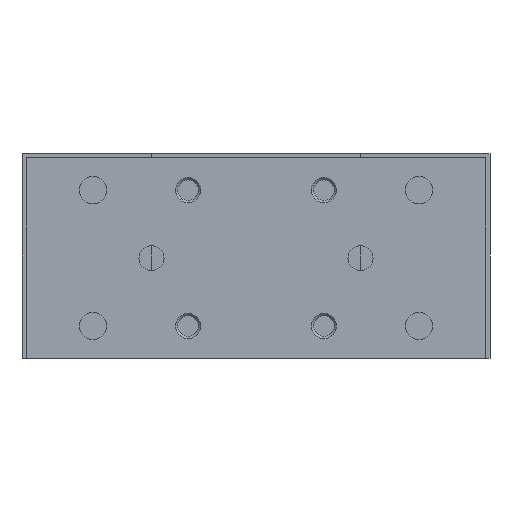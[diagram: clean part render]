
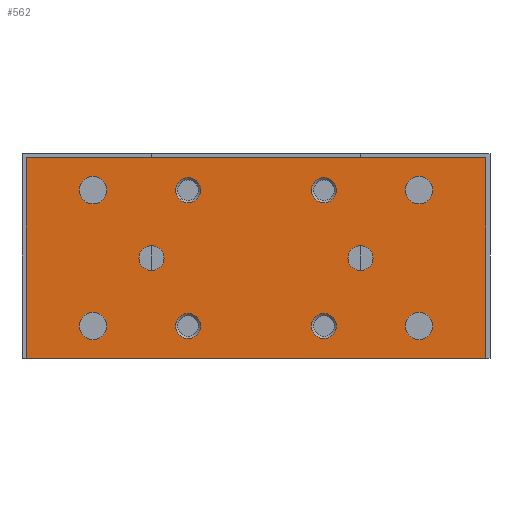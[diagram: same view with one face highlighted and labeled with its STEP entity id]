
A CAD part, left-side view. The second image highlights one B-rep face of the part: STEP entity #562.
In plain terms, the highlighted planar face has unit normal (-1, 0, 0).
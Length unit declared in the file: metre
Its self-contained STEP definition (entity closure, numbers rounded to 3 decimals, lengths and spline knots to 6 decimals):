
#562 = ADVANCED_FACE( '', ( #1371, #1372, #1373, #1374, #1375, #1376, #1377, #1378, #1379, #1380, #1381 ), #1382, .F. );
#1371 = FACE_BOUND( '', #2439, .T. );
#1372 = FACE_BOUND( '', #2440, .T. );
#1373 = FACE_BOUND( '', #2441, .T. );
#1374 = FACE_BOUND( '', #2442, .T. );
#1375 = FACE_BOUND( '', #2443, .T. );
#1376 = FACE_BOUND( '', #2444, .T. );
#1377 = FACE_BOUND( '', #2445, .T. );
#1378 = FACE_BOUND( '', #2446, .T. );
#1379 = FACE_BOUND( '', #2447, .T. );
#1380 = FACE_BOUND( '', #2448, .T. );
#1381 = FACE_OUTER_BOUND( '', #2449, .T. );
#1382 = PLANE( '', #2450 );
#2439 = EDGE_LOOP( '', ( #3883 ) );
#2440 = EDGE_LOOP( '', ( #3884 ) );
#2441 = EDGE_LOOP( '', ( #3885 ) );
#2442 = EDGE_LOOP( '', ( #3886 ) );
#2443 = EDGE_LOOP( '', ( #3887 ) );
#2444 = EDGE_LOOP( '', ( #3888 ) );
#2445 = EDGE_LOOP( '', ( #3889 ) );
#2446 = EDGE_LOOP( '', ( #3890 ) );
#2447 = EDGE_LOOP( '', ( #3891 ) );
#2448 = EDGE_LOOP( '', ( #3892 ) );
#2449 = EDGE_LOOP( '', ( #3893, #3894, #3895, #3896 ) );
#2450 = AXIS2_PLACEMENT_3D( '', #3897, #3898, #3899 );
#3883 = ORIENTED_EDGE( '', *, *, #5165, .T. );
#3884 = ORIENTED_EDGE( '', *, *, #5267, .T. );
#3885 = ORIENTED_EDGE( '', *, *, #5268, .T. );
#3886 = ORIENTED_EDGE( '', *, *, #5265, .T. );
#3887 = ORIENTED_EDGE( '', *, *, #5184, .F. );
#3888 = ORIENTED_EDGE( '', *, *, #5236, .T. );
#3889 = ORIENTED_EDGE( '', *, *, #5090, .T. );
#3890 = ORIENTED_EDGE( '', *, *, #5123, .F. );
#3891 = ORIENTED_EDGE( '', *, *, #4864, .F. );
#3892 = ORIENTED_EDGE( '', *, *, #5269, .T. );
#3893 = ORIENTED_EDGE( '', *, *, #5036, .T. );
#3894 = ORIENTED_EDGE( '', *, *, #4958, .T. );
#3895 = ORIENTED_EDGE( '', *, *, #5270, .T. );
#3896 = ORIENTED_EDGE( '', *, *, #5271, .T. );
#3897 = CARTESIAN_POINT( '', ( -0.07925, -0.055, -0.049 ) );
#3898 = DIRECTION( '', ( 1., 0., 0. ) );
#3899 = DIRECTION( '', ( 0., 1., 0. ) );
#4864 = EDGE_CURVE( '', #5545, #5545, #5546, .T. );
#4958 = EDGE_CURVE( '', #5704, #5702, #5705, .T. );
#5036 = EDGE_CURVE( '', #5839, #5704, #5840, .T. );
#5090 = EDGE_CURVE( '', #5928, #5928, #5929, .T. );
#5123 = EDGE_CURVE( '', #5976, #5976, #5977, .T. );
#5165 = EDGE_CURVE( '', #6036, #6036, #6037, .T. );
#5184 = EDGE_CURVE( '', #6064, #6064, #6065, .T. );
#5236 = EDGE_CURVE( '', #6138, #6138, #6139, .T. );
#5265 = EDGE_CURVE( '', #6180, #6180, #6181, .T. );
#5267 = EDGE_CURVE( '', #6183, #6183, #6184, .T. );
#5268 = EDGE_CURVE( '', #6185, #6185, #6186, .T. );
#5269 = EDGE_CURVE( '', #6187, #6187, #6188, .T. );
#5270 = EDGE_CURVE( '', #5702, #6189, #6190, .T. );
#5271 = EDGE_CURVE( '', #6189, #5839, #6191, .T. );
#5545 = VERTEX_POINT( '', #6563 );
#5546 = CIRCLE( '', #6564, 0.003 );
#5702 = VERTEX_POINT( '', #6744 );
#5704 = VERTEX_POINT( '', #6747 );
#5705 = LINE( '', #6748, #6749 );
#5839 = VERTEX_POINT( '', #6910 );
#5840 = LINE( '', #6911, #6912 );
#5928 = VERTEX_POINT( '', #7052 );
#5929 = CIRCLE( '', #7053, 0.003 );
#5976 = VERTEX_POINT( '', #7112 );
#5977 = CIRCLE( '', #7113, 0.003 );
#6036 = VERTEX_POINT( '', #7212 );
#6037 = CIRCLE( '', #7213, 0.0033 );
#6064 = VERTEX_POINT( '', #7273 );
#6065 = CIRCLE( '', #7274, 0.003 );
#6138 = VERTEX_POINT( '', #7362 );
#6139 = CIRCLE( '', #7363, 0.003 );
#6180 = VERTEX_POINT( '', #7413 );
#6181 = CIRCLE( '', #7414, 0.0033 );
#6183 = VERTEX_POINT( '', #7416 );
#6184 = CIRCLE( '', #7417, 0.0033 );
#6185 = VERTEX_POINT( '', #7418 );
#6186 = CIRCLE( '', #7419, 0.0033 );
#6187 = VERTEX_POINT( '', #7420 );
#6188 = CIRCLE( '', #7421, 0.003 );
#6189 = VERTEX_POINT( '', #7422 );
#6190 = LINE( '', #7423, #7424 );
#6191 = LINE( '', #7425, #7426 );
#6563 = CARTESIAN_POINT( '', ( -0.07925, -0.01325, -0.00875 ) );
#6564 = AXIS2_PLACEMENT_3D( '', #7864, #7865, #7866 );
#6744 = CARTESIAN_POINT( '', ( -0.07925, 0.055, -0.001 ) );
#6747 = CARTESIAN_POINT( '', ( -0.07925, -0.055, -0.001 ) );
#6748 = CARTESIAN_POINT( '', ( -0.07925, -0.055, -0.001 ) );
#6749 = VECTOR( '', #8012, 1. );
#6910 = CARTESIAN_POINT( '', ( -0.07925, -0.055, -0.049 ) );
#6911 = CARTESIAN_POINT( '', ( -0.07925, -0.055, -0.049 ) );
#6912 = VECTOR( '', #8142, 1. );
#7052 = CARTESIAN_POINT( '', ( -0.07925, -0.01325, -0.04125 ) );
#7053 = AXIS2_PLACEMENT_3D( '', #8216, #8217, #8218 );
#7112 = CARTESIAN_POINT( '', ( -0.07925, 0.01325, -0.04125 ) );
#7113 = AXIS2_PLACEMENT_3D( '', #8255, #8256, #8257 );
#7212 = CARTESIAN_POINT( '', ( -0.07925, -0.0357, -0.04125 ) );
#7213 = AXIS2_PLACEMENT_3D( '', #8307, #8308, #8309 );
#7273 = CARTESIAN_POINT( '', ( -0.07925, -0.025, -0.022 ) );
#7274 = AXIS2_PLACEMENT_3D( '', #8334, #8335, #8336 );
#7362 = CARTESIAN_POINT( '', ( -0.07925, 0.025, -0.022 ) );
#7363 = AXIS2_PLACEMENT_3D( '', #8394, #8395, #8396 );
#7413 = CARTESIAN_POINT( '', ( -0.07925, 0.0423, -0.00875 ) );
#7414 = AXIS2_PLACEMENT_3D( '', #8433, #8434, #8435 );
#7416 = CARTESIAN_POINT( '', ( -0.07925, 0.0423, -0.04125 ) );
#7417 = AXIS2_PLACEMENT_3D( '', #8436, #8437, #8438 );
#7418 = CARTESIAN_POINT( '', ( -0.07925, -0.0357, -0.00875 ) );
#7419 = AXIS2_PLACEMENT_3D( '', #8439, #8440, #8441 );
#7420 = CARTESIAN_POINT( '', ( -0.07925, 0.01325, -0.00875 ) );
#7421 = AXIS2_PLACEMENT_3D( '', #8442, #8443, #8444 );
#7422 = CARTESIAN_POINT( '', ( -0.07925, 0.055, -0.049 ) );
#7423 = CARTESIAN_POINT( '', ( -0.07925, 0.055, -0.001 ) );
#7424 = VECTOR( '', #8445, 1. );
#7425 = CARTESIAN_POINT( '', ( -0.07925, 0.055, -0.049 ) );
#7426 = VECTOR( '', #8446, 1. );
#7864 = CARTESIAN_POINT( '', ( -0.07925, -0.01625, -0.00875 ) );
#7865 = DIRECTION( '', ( -1., 0., 0. ) );
#7866 = DIRECTION( '', ( 0., 1., 0. ) );
#8012 = DIRECTION( '', ( 0., 1., 0. ) );
#8142 = DIRECTION( '', ( 0., 0., 1. ) );
#8216 = CARTESIAN_POINT( '', ( -0.07925, -0.01625, -0.04125 ) );
#8217 = DIRECTION( '', ( 1., 0., 0. ) );
#8218 = DIRECTION( '', ( 0., 1., 0. ) );
#8255 = CARTESIAN_POINT( '', ( -0.07925, 0.01625, -0.04125 ) );
#8256 = DIRECTION( '', ( -1., 0., 0. ) );
#8257 = DIRECTION( '', ( 0., -1., 0. ) );
#8307 = CARTESIAN_POINT( '', ( -0.07925, -0.039, -0.04125 ) );
#8308 = DIRECTION( '', ( 1., 0., 0. ) );
#8309 = DIRECTION( '', ( 0., 1., 0. ) );
#8334 = CARTESIAN_POINT( '', ( -0.07925, -0.025, -0.025 ) );
#8335 = DIRECTION( '', ( -1., 0., 0. ) );
#8336 = DIRECTION( '', ( 0., 0., 1. ) );
#8394 = CARTESIAN_POINT( '', ( -0.07925, 0.025, -0.025 ) );
#8395 = DIRECTION( '', ( 1., 0., 0. ) );
#8396 = DIRECTION( '', ( 0., 0., 1. ) );
#8433 = CARTESIAN_POINT( '', ( -0.07925, 0.039, -0.00875 ) );
#8434 = DIRECTION( '', ( 1., 0., 0. ) );
#8435 = DIRECTION( '', ( 0., 1., 0. ) );
#8436 = CARTESIAN_POINT( '', ( -0.07925, 0.039, -0.04125 ) );
#8437 = DIRECTION( '', ( 1., 0., 0. ) );
#8438 = DIRECTION( '', ( 0., 1., 0. ) );
#8439 = CARTESIAN_POINT( '', ( -0.07925, -0.039, -0.00875 ) );
#8440 = DIRECTION( '', ( 1., 0., 0. ) );
#8441 = DIRECTION( '', ( 0., 1., 0. ) );
#8442 = CARTESIAN_POINT( '', ( -0.07925, 0.01625, -0.00875 ) );
#8443 = DIRECTION( '', ( 1., 0., 0. ) );
#8444 = DIRECTION( '', ( 0., -1., 0. ) );
#8445 = DIRECTION( '', ( 0., 0., -1. ) );
#8446 = DIRECTION( '', ( 0., -1., 0. ) );
